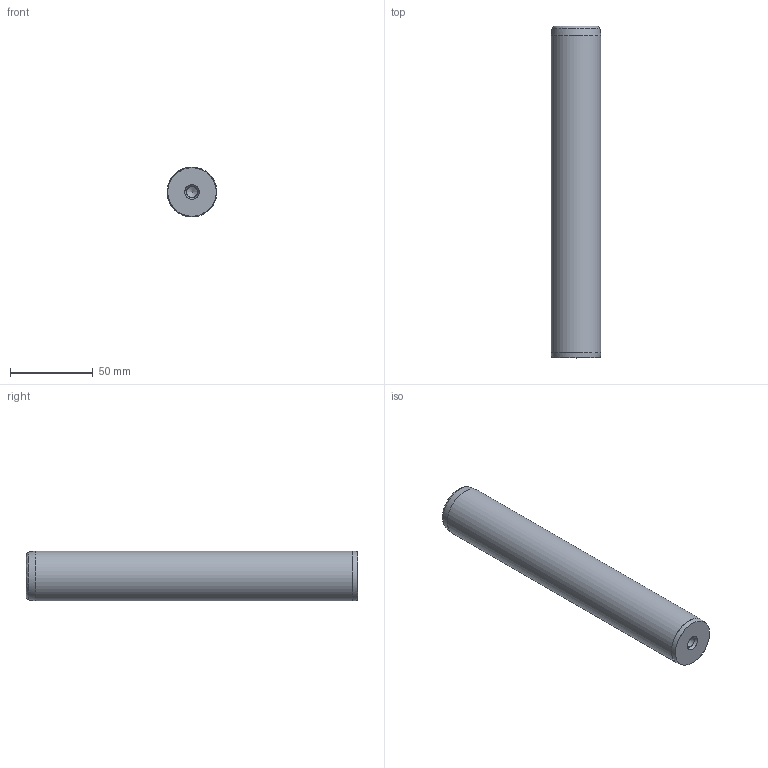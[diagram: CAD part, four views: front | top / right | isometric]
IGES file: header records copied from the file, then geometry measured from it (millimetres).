
Start section: Missler Software BP 521, 31674 Labege Cedex, France Tel   : +33 (0)5 61 00 03 00 Fax   : +33 (0)5 61 00 03 03 Email : sup.topsolid@topsolid.com
Global section: file name: D:\Cuma\D14\D14_30200.igs; native system: TopSolid v605250 Missler Software; preprocessor: IGES preprocessor v100000; date: 030120.193149; units: millimetre
Bounding box: 29.96 x 200 x 30 mm (x, y, z)
Surface area: 21216.9 mm2 (no closed solid volume)
Topology: 0 solids, 0 shells, 14 faces, 145 edges, 136 vertices
Faces by surface type: bspline 14
